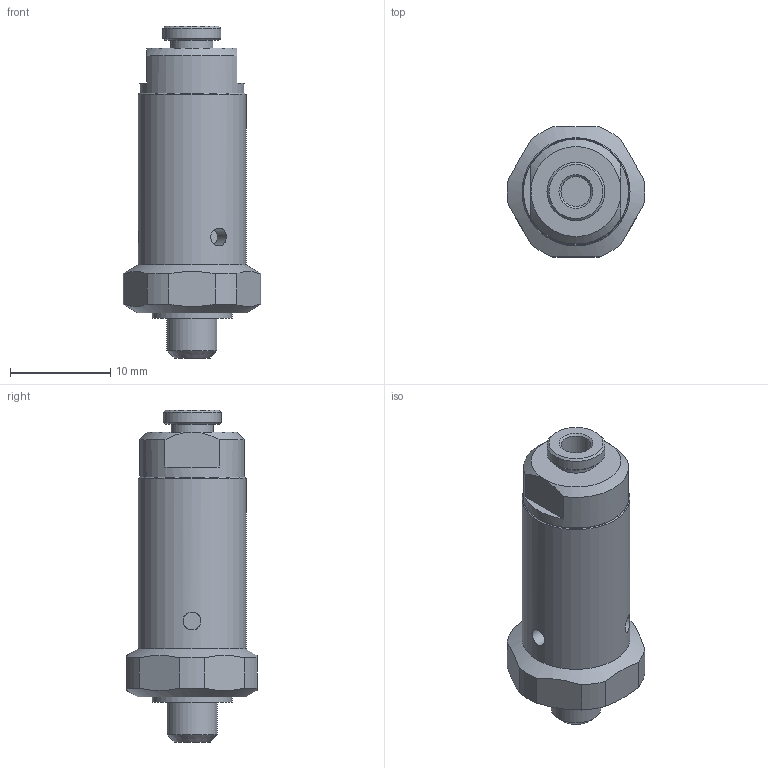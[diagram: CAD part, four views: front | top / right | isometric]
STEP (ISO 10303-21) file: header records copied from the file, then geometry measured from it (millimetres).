
FILE_DESCRIPTION(/* description */ ('V. S.RAPIDO IN TUBO d.3 OUT M5'),/* implementation_level */ '2;1');
FILE_NAME(/* name */ 'I:\Area Tecnica\Disegni\VARIE-3D\Componenti\600\6_02_##_##_L\6_02_03_M5_L.stp',/* time_stamp */ '2017-01-20T13:58:48+01:00',/* author */ ('maniean1'),/* organization */ ('Pneumax S.p.A.'),/* preprocessor_version */ 'ST-DEVELOPER v15.2',/* originating_system */ 'Autodesk Inventor 2014',/* authorisation */ '');
FILE_SCHEMA (('AUTOMOTIVE_DESIGN { 1 0 10303 214 3 1 1 }'));
Length unit declared in the file: millimetre
Products named in the file (1): 6_02_03_M5_L
Bounding box: 13.77 x 13 x 33.2 mm (x, y, z)
Volume: 2640.6 mm3; surface area: 1409.7 mm2
Topology: 1 solids, 1 shells, 46 faces, 97 edges, 62 vertices
Faces by surface type: plane 21, cylinder 16, cone 9
Full cylindrical faces by diameter (mm): 1.8 x3, 3 x1, 4.2 x1, 5 x1, 5.8 x1, 8 x1, 10.5 x1, 10.8 x1
Entity records: 1226 total; most frequent: CARTESIAN_POINT 314, DIRECTION 192, ORIENTED_EDGE 154, AXIS2_PLACEMENT_3D 87, EDGE_CURVE 77, EDGE_LOOP 72, VERTEX_POINT 59, ADVANCED_FACE 46
